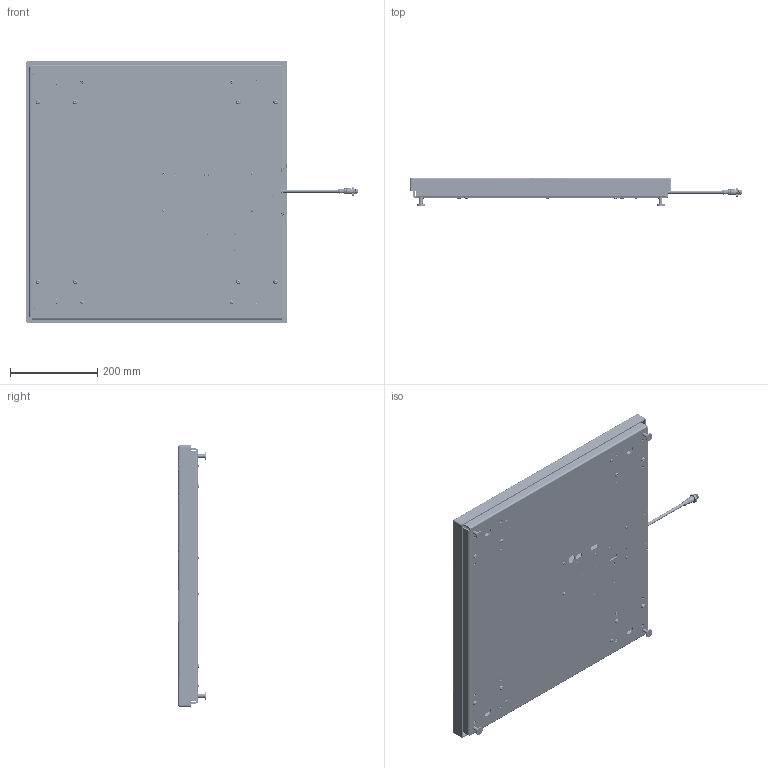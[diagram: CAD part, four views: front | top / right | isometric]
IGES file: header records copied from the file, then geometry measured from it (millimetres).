
Start section: SolidWorks IGES file using analytic representation for surfaces
Global section: file name: C:\0_Work\SolidWorks\~0_E-Scales\24x24\HI2424SBD-130.IGS; native system: SolidWorks 2017; preprocessor: SolidWorks 2017; author: vach01; date: 190815.113000; units: millimetre
Bounding box: 762.12 x 64.1 x 600 mm (x, y, z)
Surface area: 1933194.8 mm2 (no closed solid volume)
Topology: 0 solids, 0 shells, 12578 faces, 113785 edges, 113665 vertices
Faces by surface type: bspline 9145, revolution 3433
